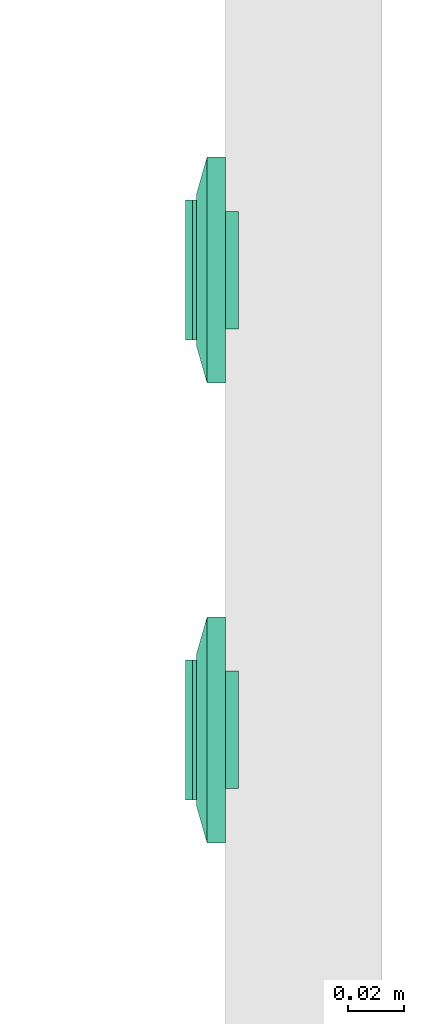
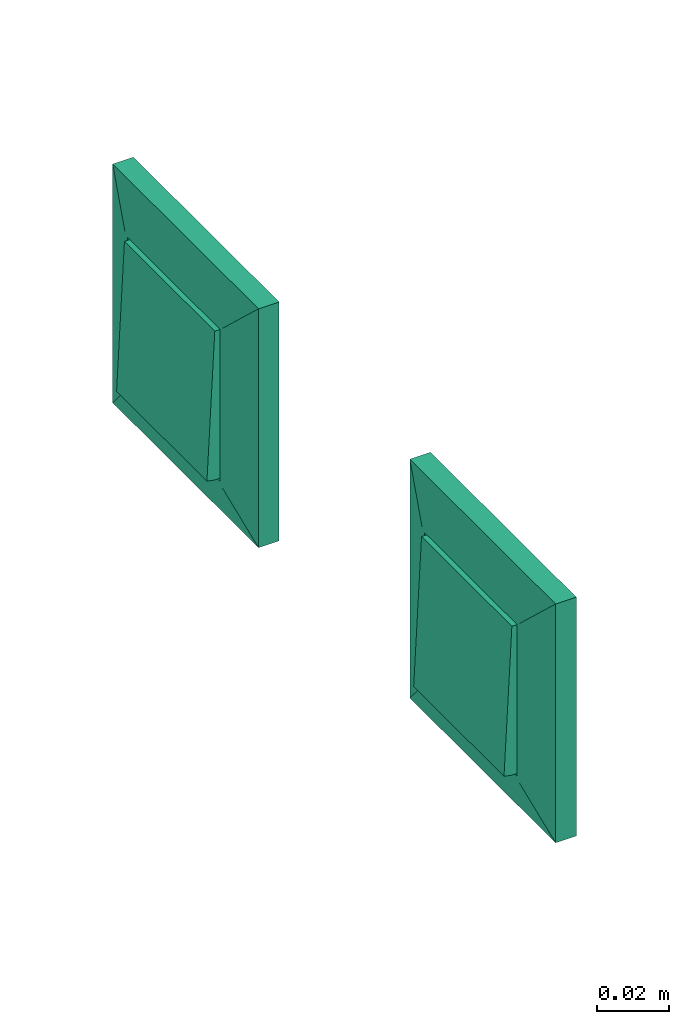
# One storey, part 59 of 166: 2 flow terminals.
"""IFC2X3 building model written with IfcOpenShell, lengths in metres."""

import ifcopenshell
import ifcopenshell.guid

model = None  # the IFC model being written
_history = None  # IfcOwnerHistory: only IFC2X3 demands one
_inside = {}  # id of a spatial element -> (the spatial element, [elements in it])
_under = {}  # id of a project, library or spatial element -> (it, [spatial elements below it])
_declared = {}  # id of a project -> (the project, [libraries it declares])
_typed = {}  # id of a type object -> (the type object, [elements of that type])
_made_of = {}  # id of a material, layer set ... -> (it, [elements and type objects made of it])


def new_model(schema):
    """Start an empty IFC model of exactly this schema.

    Asked for "IFC4X3", IfcOpenShell would pick the latest addendum, in which some entities
    have other attributes; the version numbers below select the first issue.
    IFC2X3 requires an IfcOwnerHistory on every rooted entity: one is made here for all.
    """
    global model, _history
    if schema == "IFC4X3":
        model = ifcopenshell.file(schema_version=(4, 3, 0, 0))
    else:
        model = ifcopenshell.file(schema=schema)
    _inside.clear()
    _under.clear()
    _declared.clear()
    _typed.clear()
    _made_of.clear()
    _history = None
    if model.schema == "IFC2X3":
        org = make("IfcOrganization", Name="unknown")
        user = make(
            "IfcPersonAndOrganization",
            ThePerson=make("IfcPerson", FamilyName="unknown"),
            TheOrganization=org,
        )
        app = make(
            "IfcApplication",
            ApplicationDeveloper=org,
            Version="unknown",
            ApplicationFullName="unknown",
            ApplicationIdentifier="unknown",
        )
        _history = make(
            "IfcOwnerHistory",
            OwningUser=user,
            OwningApplication=app,
            ChangeAction="ADDED",
            CreationDate=0,
        )
    return model


def make(cls, **values):
    """One entity of the class cls with the attributes given. An attribute that is None is left unset."""
    return model.create_entity(
        cls, **{name: value for name, value in values.items() if value is not None}
    )


def entity(cls, *values):
    """Any entity or typed value of the class cls, its attributes in the order of the schema. None: left unset."""
    e = model.create_entity(cls)
    for i, value in enumerate(values):
        if value is not None:
            e[i] = value
    return e


def rooted(cls, **values):
    """An entity with a GlobalId (a new one), such as an element, a storey or a relation."""
    return make(cls, GlobalId=ifcopenshell.guid.new(), OwnerHistory=_history, **values)


def si_unit(unit_type, name, prefix=None):
    """IfcSIUnit, for example si_unit("LENGTHUNIT", "METRE", prefix="MILLI")."""
    return make("IfcSIUnit", UnitType=unit_type, Prefix=prefix, Name=name)


def converted_unit(unit_type, name, factor, base, dimensions=None, offset=None):
    """IfcConversionBasedUnit, such as the inch: factor (a typed value) times the base unit."""
    return make(
        "IfcConversionBasedUnit"
        if offset is None
        else "IfcConversionBasedUnitWithOffset",
        ConversionOffset=offset,
        Dimensions=None
        if dimensions is None
        else entity("IfcDimensionalExponents", *dimensions),
        UnitType=unit_type,
        Name=name,
        ConversionFactor=make(
            "IfcMeasureWithUnit", ValueComponent=factor, UnitComponent=base
        ),
    )


def derived_unit(unit_type, elements):
    """IfcDerivedUnit: a product of units, each with its exponent."""
    return make(
        "IfcDerivedUnit",
        Elements=[
            make("IfcDerivedUnitElement", Unit=unit, Exponent=power)
            for unit, power in elements
        ],
        UnitType=unit_type,
    )


def assignment(units):
    """IfcUnitAssignment: the units of a project."""
    return None if units is None else make("IfcUnitAssignment", Units=units)


def point(xyz):
    """IfcCartesianPoint."""
    return None if xyz is None else make("IfcCartesianPoint", Coordinates=xyz)


def direction(xyz):
    """IfcDirection."""
    return None if xyz is None else make("IfcDirection", DirectionRatios=xyz)


def frame(location, z_axis=None, x_axis=None):
    """IfcAxis2Placement3D, a coordinate frame: its origin and axes. An axis left out is left unset."""
    return make(
        "IfcAxis2Placement3D",
        Location=point(location),
        Axis=direction(z_axis),
        RefDirection=direction(x_axis),
    )


def origin():
    """The frame at (0, 0, 0) with its axes left unset."""
    return frame((0.0, 0.0, 0.0))


def place(relative_to, where):
    """IfcLocalPlacement: puts the frame where relative to a parent placement (None: the world)."""
    return make(
        "IfcLocalPlacement", PlacementRelTo=relative_to, RelativePlacement=where
    )


def context(
    kind, dimensions, precision=None, world=None, true_north=None, identifier=None
):
    """IfcGeometricRepresentationContext, for example the 3D "Model" context."""
    return make(
        "IfcGeometricRepresentationContext",
        ContextIdentifier=identifier,
        ContextType=kind,
        CoordinateSpaceDimension=dimensions,
        Precision=precision,
        WorldCoordinateSystem=world,
        TrueNorth=true_north,
    )


def subcontext(parent, identifier, kind, view, scale=None):
    """IfcGeometricRepresentationSubContext, for example "Body" below "Model"."""
    return make(
        "IfcGeometricRepresentationSubContext",
        ContextIdentifier=identifier,
        ContextType=kind,
        ParentContext=parent,
        TargetScale=scale,
        TargetView=view,
    )


def project(units=None, contexts=None):
    """IfcProject with its units and contexts."""
    return rooted(
        "IfcProject",
        Name="project",
        RepresentationContexts=contexts,
        UnitsInContext=assignment(units),
    )


def spatial(cls, under=None, at=None, **own):
    """A site, building, storey or space (cls), placed at a placement, below another one or the project."""
    s = rooted(cls, ObjectPlacement=at, **own)
    if under is not None:
        _under.setdefault(under.id(), (under, []))[1].append(s)
    return s


def faces_of(points, faces, orient=None, outer=None):
    """IfcFace entities. A face is a list of loops; a loop is a list of indices into points, from 0.

    orient and outer hold one flag for each loop. By default every Orientation is true, the
    first loop of a face is its IfcFaceOuterBound and the others are IfcFaceBound.
    """
    made = []
    for i, loops in enumerate(faces):
        bounds = []
        for j, loop in enumerate(loops):
            is_outer = j == 0 if outer is None else outer[i][j]
            bounds.append(
                make(
                    "IfcFaceOuterBound" if is_outer else "IfcFaceBound",
                    Bound=make("IfcPolyLoop", Polygon=[points[k] for k in loop]),
                    Orientation=True if orient is None else orient[i][j],
                )
            )
        made.append(make("IfcFace", Bounds=bounds))
    return made


def faceted_brep(points, faces, orient=None, outer=None, voids=None):
    """IfcFacetedBrep: a solid bounded by flat faces; with voids (closed shells), ...WithVoids."""
    shared = [point(p) for p in points]
    hull = make("IfcClosedShell", CfsFaces=faces_of(shared, faces, orient, outer))
    if voids is None:
        return make("IfcFacetedBrep", Outer=hull)
    return make(
        "IfcFacetedBrepWithVoids",
        Outer=hull,
        Voids=[
            make(cls, CfsFaces=faces_of(shared, fs, o, b)) for cls, fs, o, b in voids
        ],
    )


def shape(context_of_items, identifier, shape_type, items):
    """IfcShapeRepresentation: the items that make up one representation, for example the "Body"."""
    return make(
        "IfcShapeRepresentation",
        ContextOfItems=context_of_items,
        RepresentationIdentifier=identifier,
        RepresentationType=shape_type,
        Items=items,
    )


def source(mapping_origin, context_of_items, identifier, shape_type, items):
    """IfcRepresentationMap: a shape defined once, which mapped items show again and again."""
    return make(
        "IfcRepresentationMap",
        MappingOrigin=mapping_origin,
        MappedRepresentation=shape(context_of_items, identifier, shape_type, items),
    )


def transform(
    local_origin,
    x_axis=None,
    y_axis=None,
    z_axis=None,
    scale=None,
    scale2=None,
    scale3=None,
    uniform=True,
):
    """IfcCartesianTransformationOperator3D, or its non-uniform kind. x_axis, y_axis, z_axis: its Axis1, 2, 3."""
    if uniform:
        return make(
            "IfcCartesianTransformationOperator3D",
            Axis1=direction(x_axis),
            Axis2=direction(y_axis),
            LocalOrigin=point(local_origin),
            Scale=scale,
            Axis3=direction(z_axis),
        )
    return make(
        "IfcCartesianTransformationOperator3DnonUniform",
        Axis1=direction(x_axis),
        Axis2=direction(y_axis),
        LocalOrigin=point(local_origin),
        Scale=scale,
        Axis3=direction(z_axis),
        Scale2=scale2,
        Scale3=scale3,
    )


def mapped(mapping_source, mapping_target):
    """IfcMappedItem: shows the shape of a source again, moved by a transform."""
    return make(
        "IfcMappedItem", MappingSource=mapping_source, MappingTarget=mapping_target
    )


def made_of(thing, what):
    """Note that an element or type object is made of a material, layer set ...; save() writes the relation."""
    if what is not None:
        _made_of.setdefault(what.id(), (what, []))[1].append(thing)
    return thing


def type_object(cls, material=None, **own):
    """A type object (cls), such as IfcWallType, which elements share."""
    return made_of(rooted(cls, **own), material)


def type_shapes(of_type, sources):
    """Give a type object the sources (RepresentationMaps) that its elements show as mapped items."""
    of_type.RepresentationMaps = sources


def element(
    cls,
    number,
    at=None,
    inside=None,
    cuts=None,
    type_object=None,
    material=None,
    context=None,
    identifier="Body",
    shape_type=None,
    held_by="IfcProductDefinitionShape",
    body=None,
    shapes=None,
    **own,
):
    """One element of the class cls, such as IfcWall. Its Tag is "e" and its number.

    at: its placement. inside: the storey or other place that contains it. cuts: it is an
    opening in that element (IfcRelVoidsElement). A single representation is given by context,
    identifier, shape_type and body (its items); several are given by shapes. held_by: the class
    of the entity that holds the representations. save() writes the other relations.
    """
    e = rooted(cls, Tag="e%d" % number, ObjectPlacement=at, **own)
    if body is not None:
        shapes = [shape(context, identifier, shape_type, body)]
    if shapes is not None:
        e.Representation = make(held_by, Representations=shapes)
    if inside is not None:
        _inside.setdefault(inside.id(), (inside, []))[1].append(e)
    if cuts is not None:
        rooted(
            "IfcRelVoidsElement", RelatingBuildingElement=cuts, RelatedOpeningElement=e
        )
    if type_object is not None:
        _typed.setdefault(type_object.id(), (type_object, []))[1].append(e)
    return made_of(e, material)


def aggregate(whole, parts):
    """IfcRelAggregates: a whole, such as a stair, and the parts it consists of."""
    return rooted("IfcRelAggregates", RelatingObject=whole, RelatedObjects=parts)


def save(model, path):
    """Write the relations noted so far, then the file.

    IfcRelAggregates (storeys below a building ...), IfcRelContainedInSpatialStructure (elements
    in a storey), IfcRelDefinesByType, IfcRelAssociatesMaterial and IfcRelDeclares: one each for
    every whole, place, type object, material and project.
    """
    for whole, parts in _under.values():
        aggregate(whole, parts)
    for where, things in _inside.values():
        rooted(
            "IfcRelContainedInSpatialStructure",
            RelatedElements=things,
            RelatingStructure=where,
        )
    for kind, things in _typed.values():
        rooted("IfcRelDefinesByType", RelatedObjects=things, RelatingType=kind)
    for what, things in _made_of.values():
        rooted("IfcRelAssociatesMaterial", RelatedObjects=things, RelatingMaterial=what)
    for by, libraries in _declared.values():
        rooted("IfcRelDeclares", RelatingContext=by, RelatedDefinitions=libraries)
    model.write(path)


model = new_model("IFC2X3")

# Units and contexts
model_context = context("Model", 3, precision=1e-05, world=origin(), true_north=direction((6.12303176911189e-17, 1.0)))
body_context = subcontext(model_context, "Body", "Model", "MODEL_VIEW")
ifc_project = project(units=[si_unit("LENGTHUNIT", "METRE"), si_unit("AREAUNIT", "SQUARE_METRE"), si_unit("VOLUMEUNIT", "CUBIC_METRE"), converted_unit("PLANEANGLEUNIT", "DEGREE", entity("IfcRatioMeasure", 0.0174532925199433), si_unit("PLANEANGLEUNIT", "RADIAN"), dimensions=[0, 0, 0, 0, 0, 0, 0]), si_unit("MASSUNIT", "GRAM", prefix="KILO"), derived_unit("MASSDENSITYUNIT", [(si_unit("MASSUNIT", "GRAM", prefix="KILO"), 1), (si_unit("LENGTHUNIT", "METRE"), -3)]), si_unit("TIMEUNIT", "SECOND"), si_unit("FREQUENCYUNIT", "HERTZ"), si_unit("THERMODYNAMICTEMPERATUREUNIT", "DEGREE_CELSIUS"), derived_unit("THERMALTRANSMITTANCEUNIT", [(si_unit("MASSUNIT", "GRAM", prefix="KILO"), 1), (si_unit("THERMODYNAMICTEMPERATUREUNIT", "KELVIN"), -1), (si_unit("TIMEUNIT", "SECOND"), -3)]), derived_unit("VOLUMETRICFLOWRATEUNIT", [(si_unit("LENGTHUNIT", "METRE"), 3), (si_unit("TIMEUNIT", "SECOND"), -1)]), si_unit("ELECTRICCURRENTUNIT", "AMPERE"), si_unit("ELECTRICVOLTAGEUNIT", "VOLT"), si_unit("POWERUNIT", "WATT"), si_unit("FORCEUNIT", "NEWTON"), si_unit("ILLUMINANCEUNIT", "LUX"), si_unit("LUMINOUSFLUXUNIT", "LUMEN"), si_unit("LUMINOUSINTENSITYUNIT", "CANDELA"), derived_unit("USERDEFINED", [(si_unit("MASSUNIT", "GRAM", prefix="KILO"), -1), (si_unit("LENGTHUNIT", "METRE"), -2), (si_unit("TIMEUNIT", "SECOND"), 3), (si_unit("LUMINOUSFLUXUNIT", "LUMEN"), 1)]), derived_unit("LINEARVELOCITYUNIT", [(si_unit("LENGTHUNIT", "METRE"), 1), (si_unit("TIMEUNIT", "SECOND"), -1)]), si_unit("PRESSUREUNIT", "PASCAL"), derived_unit("USERDEFINED", [(si_unit("LENGTHUNIT", "METRE"), -2), (si_unit("MASSUNIT", "GRAM", prefix="KILO"), 1), (si_unit("TIMEUNIT", "SECOND"), -2)])], contexts=[model_context])

# Site, building, storey
site_placement = place(None, origin())
site = spatial("IfcSite", under=ifc_project, at=site_placement, Name="Default", CompositionType="ELEMENT")
building_placement = place(site_placement, origin())
building = spatial("IfcBuilding", under=site, at=building_placement, CompositionType="ELEMENT")
storey_placement = place(building_placement, frame((0.0, 0.0, 4.27)))
storey = spatial("IfcBuildingStorey", under=building, at=storey_placement, Name="01", CompositionType="ELEMENT", Elevation=4.27)

# Flow terminals
light_fixture_type = type_object("IfcLightFixtureType", Name="BP IP21", PredefinedType="NOTDEFINED")
shared_shape = source(origin(), body_context, "Body", "Brep", [
    faceted_brep([(0.0, 0.0209999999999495, -0.00460000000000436), (0.00543519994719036, 0.02028444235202, -0.00460000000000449), (0.0105000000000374, 0.0181865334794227, -0.00460000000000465), (0.0148492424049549, 0.014849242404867, -0.00460000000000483), (0.0181865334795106, 0.0104999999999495, -0.00460000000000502), (0.0202844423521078, 0.00543519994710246, -0.00460000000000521), (0.0210000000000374, 0.0, -0.00460000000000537), (0.0202844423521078, -0.00543519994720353, -0.00460000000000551), (0.0181865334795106, -0.0105000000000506, -0.0046000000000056), (0.0148492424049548, -0.0148492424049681, -0.00460000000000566), (0.0105000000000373, -0.0181865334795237, -0.00460000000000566), (0.00543519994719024, -0.0202844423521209, -0.00460000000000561), (0.0, -0.0210000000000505, -0.00460000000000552), (-0.00543519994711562, -0.0202844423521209, -0.00460000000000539), (-0.0104999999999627, -0.0181865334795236, -0.00460000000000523), (-0.0148492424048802, -0.0148492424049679, -0.00460000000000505), (-0.0181865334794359, -0.0105000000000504, -0.00460000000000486), (-0.0202844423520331, -0.00543519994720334, -0.00460000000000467), (-0.0209999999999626, 0.0, -0.00460000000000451), (-0.020284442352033, 0.00543519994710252, -0.00460000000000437), (-0.0181865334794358, 0.0104999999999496, -0.00460000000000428), (-0.0148492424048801, 0.0148492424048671, -0.00460000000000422), (-0.0104999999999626, 0.0181865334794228, -0.00460000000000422), (-0.00543519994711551, 0.02028444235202, -0.00460000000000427), (-0.020284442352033, -0.00543519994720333, 0.0), (-0.0209999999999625, 0.0, 0.0), (-0.0181865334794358, -0.0105000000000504, 0.0), (-0.0104999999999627, -0.0181865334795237, 0.0), (-0.0148492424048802, -0.0148492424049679, 0.0), (-0.00543519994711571, -0.020284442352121, 0.0), (0.0, -0.0210000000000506, 0.0), (0.00543519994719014, -0.0202844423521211, 0.0), (0.0105000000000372, -0.018186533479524, 0.0), (0.0181865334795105, -0.0105000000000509, 0.0), (0.0148492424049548, -0.0148492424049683, 0.0), (0.0202844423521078, -0.00543519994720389, 0.0), (0.0210000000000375, 0.0, 0.0), (0.0202844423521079, 0.00543519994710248, 0.0), (0.0181865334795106, 0.0104999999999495, 0.0), (0.0105000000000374, 0.0181865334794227, 0.0), (0.0148492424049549, 0.014849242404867, 0.0), (0.00543519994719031, 0.0202844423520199, 0.0), (0.0, 0.0209999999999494, 0.0), (-0.00543519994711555, 0.0202844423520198, 0.0), (-0.0104999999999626, 0.0181865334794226, 0.0), (-0.0181865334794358, 0.0104999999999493, 0.0), (-0.0148492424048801, 0.0148492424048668, 0.0), (-0.020284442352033, 0.00543519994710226, 0.0)], [[[0, 1, 2, 3, 4, 5, 6, 7, 8, 9, 10, 11, 12, 13, 14, 15, 16, 17, 18, 19, 20, 21, 22, 23]], [[17, 24, 25, 18]], [[16, 26, 24, 17]], [[27, 28, 15, 14]], [[16, 15, 28, 26]], [[29, 27, 14, 13]], [[30, 29, 13, 12]], [[11, 31, 30, 12]], [[10, 32, 31, 11]], [[33, 34, 9, 8]], [[10, 9, 34, 32]], [[35, 33, 8, 7]], [[36, 35, 7, 6]], [[5, 37, 36, 6]], [[4, 38, 37, 5]], [[39, 40, 3, 2]], [[4, 3, 40, 38]], [[41, 39, 2, 1]], [[42, 41, 1, 0]], [[23, 43, 42, 0]], [[22, 44, 43, 23]], [[45, 46, 21, 20]], [[22, 21, 46, 44]], [[47, 45, 20, 19]], [[25, 47, 19, 18]], [[25, 24, 26, 28, 27, 29, 30, 31, 32, 34, 33, 35, 36, 37, 38, 40, 39, 41, 42, 43, 44, 46, 45, 47]]]),
    faceted_brep([(0.0270000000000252, 0.026999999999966, 0.0103999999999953), (-0.0269999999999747, 0.026999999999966, 0.0103999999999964), (-0.0269999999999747, -0.0270000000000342, 0.0103999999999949), (0.0270000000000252, -0.0270000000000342, 0.0103999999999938), (-0.0254999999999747, 0.0258096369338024, 0.0103999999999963), (0.0255000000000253, 0.0258096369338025, 0.0103999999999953), (0.0255000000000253, -0.0255000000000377, 0.0103999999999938), (-0.0254999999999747, -0.0255000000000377, 0.0103999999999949), (0.0270000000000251, 0.0269999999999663, 0.00199999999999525), (0.0270000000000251, -0.0270000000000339, 0.00199999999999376), (-0.0269999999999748, -0.0270000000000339, 0.00199999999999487), (-0.0269999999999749, 0.0269999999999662, 0.00199999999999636), (0.0255000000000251, 0.0258096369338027, 0.00199999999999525), (-0.0254999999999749, 0.0258096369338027, 0.0019999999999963), (-0.0254999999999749, -0.0255000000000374, 0.00199999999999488), (0.0255000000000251, -0.0255000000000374, 0.00199999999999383)], [[[0, 1, 2, 3], [4, 5, 6, 7]], [[8, 9, 10, 11], [12, 13, 14, 15]], [[1, 0, 8, 11]], [[2, 1, 11, 10]], [[3, 2, 10, 9]], [[0, 3, 9, 8]], [[12, 5, 4, 13]], [[13, 4, 7, 14]], [[14, 7, 6, 15]], [[5, 12, 15, 6]]]),
    faceted_brep([(0.0250000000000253, 0.0253096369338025, 0.00659999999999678), (0.0250000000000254, 0.0253096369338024, 0.0117095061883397), (0.0250000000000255, -0.0245000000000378, 0.0142232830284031), (0.0250000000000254, -0.0250000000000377, 0.0117095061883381), (0.0250000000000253, -0.0250000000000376, 0.00659999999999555), (-0.0249999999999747, 0.0253096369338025, 0.00659999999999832), (-0.0249999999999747, -0.0250000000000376, 0.00659999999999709), (-0.0249999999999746, -0.0250000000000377, 0.0117095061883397), (-0.0249999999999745, -0.0245000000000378, 0.0142232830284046), (-0.0249999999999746, 0.0253096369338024, 0.0117095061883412)], [[[0, 1, 2, 3, 4]], [[5, 6, 7, 8, 9]], [[1, 0, 5, 9]], [[2, 1, 9, 8]], [[3, 2, 8, 7]], [[4, 3, 7, 6]], [[0, 4, 6, 5]]]),
    faceted_brep([(0.027000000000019, 0.0269999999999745, 0.00659999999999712), (-0.0269999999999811, 0.0269999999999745, 0.00659999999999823), (-0.026999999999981, -0.0270000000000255, 0.00659999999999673), (0.027000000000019, -0.0270000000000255, 0.00659999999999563), (0.040350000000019, 0.0403499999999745, 0.00659999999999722), (0.040350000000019, -0.0403500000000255, 0.00659999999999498), (-0.0403499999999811, -0.0403500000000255, 0.00659999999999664), (-0.0403499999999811, 0.0403499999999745, 0.00659999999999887), (-0.026999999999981, 0.0269999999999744, 0.0103999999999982), (0.027000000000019, 0.0269999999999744, 0.0103999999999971), (-0.026999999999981, -0.0270000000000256, 0.0103999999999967), (0.027000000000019, -0.0270000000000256, 0.0103999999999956)], [[[0, 1, 2, 3], [4, 5, 6, 7]], [[4, 7, 8, 9]], [[7, 6, 10, 8]], [[6, 5, 11, 10]], [[5, 4, 9, 11]], [[0, 9, 8, 1]], [[1, 8, 10, 2]], [[2, 10, 11, 3]], [[9, 0, 3, 11]]], outer=[[False, True], [True], [True], [True], [True], [True], [True], [True], [True]]),
    faceted_brep([(0.040350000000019, 0.0403499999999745, 0.00659999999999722), (-0.0403499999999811, 0.0403499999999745, 0.00659999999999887), (-0.0403499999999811, -0.0403500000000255, 0.00659999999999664), (0.040350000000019, -0.0403500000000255, 0.00659999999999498), (-0.0269999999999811, 0.0269999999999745, 0.00659999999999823), (0.0270000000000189, 0.0269999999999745, 0.00659999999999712), (0.0270000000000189, -0.0270000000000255, 0.00659999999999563), (-0.0269999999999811, -0.0270000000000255, 0.00659999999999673), (0.0403500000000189, 0.0403499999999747, 0.0), (0.0403500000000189, -0.0403500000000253, 0.0), (-0.0403499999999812, -0.0403500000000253, 0.0), (-0.0403499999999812, 0.0403499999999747, 0.0), (0.0270000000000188, 0.0269999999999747, 0.0), (-0.0269999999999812, 0.0269999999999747, 0.0), (-0.0269999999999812, -0.0270000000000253, 0.0), (0.0270000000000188, -0.0270000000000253, 0.0)], [[[0, 1, 2, 3], [4, 5, 6, 7]], [[8, 9, 10, 11], [12, 13, 14, 15]], [[1, 0, 8, 11]], [[2, 1, 11, 10]], [[3, 2, 10, 9]], [[0, 3, 9, 8]], [[12, 5, 4, 13]], [[13, 4, 7, 14]], [[14, 7, 6, 15]], [[5, 12, 15, 6]]]),
])
type_shapes(light_fixture_type, [shared_shape])
for number, where, z_axis, x_axis in (
    (1, (37.3667436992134, -190.217996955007, 5.32000000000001), (-1.0, 0.0, 0.0), (0.0, -1.0, 0.0)),
    (2, (37.3667436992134, -190.053570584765, 5.32000000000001), (-1.0, 0.0, 0.0), (0.0, -1.0, 0.0)),
):
    element("IfcFlowTerminal", number, at=place(building_placement, frame(where, z_axis=z_axis, x_axis=x_axis)), inside=storey, type_object=light_fixture_type, Name="INT_Cmd BA:BP IP21", ObjectType="INT_Cmd BA:BP IP21", context=body_context, shape_type="MappedRepresentation", body=[
        mapped(shared_shape, transform((0.0, 0.0, 0.0), scale=1.0)),
    ])

save(model, "model.ifc")
